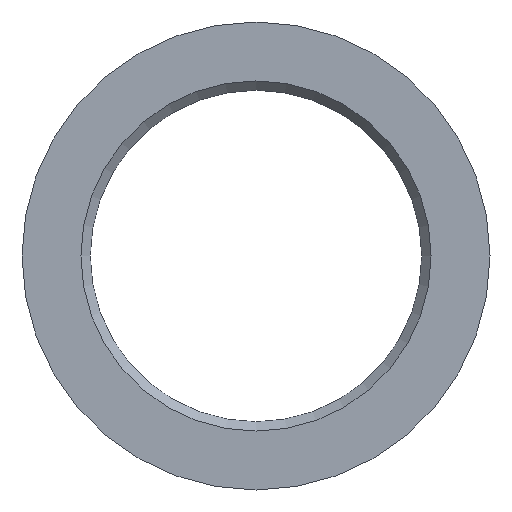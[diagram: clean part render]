
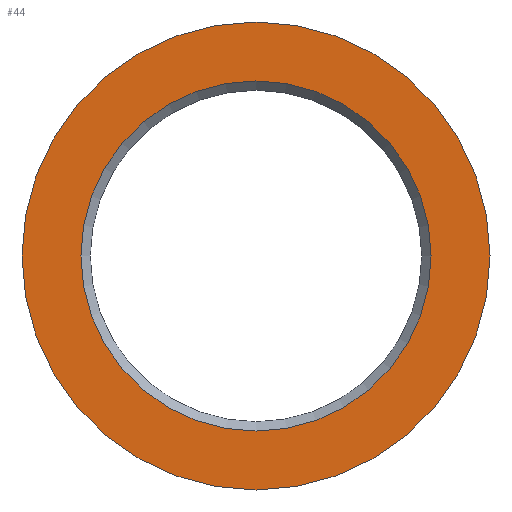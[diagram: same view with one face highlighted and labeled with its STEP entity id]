
A CAD part, front view. The second image highlights one B-rep face of the part: STEP entity #44.
In plain terms, the highlighted planar face has unit normal (0, -1, 0).
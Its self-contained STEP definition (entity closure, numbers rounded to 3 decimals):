
#44=ADVANCED_FACE('',(#63,#65),#67,.F.);
#63=FACE_BOUND('',#64,.T.);
#64=EDGE_LOOP('',(#210));
#65=FACE_BOUND('',#66,.T.);
#66=EDGE_LOOP('',(#211));
#67=PLANE('',#68);
#68=AXIS2_PLACEMENT_3D('',#69,#70,#71);
#69=CARTESIAN_POINT('',(0.,0.,0.));
#70=DIRECTION('',(0.,1.,0.));
#71=DIRECTION('',(-1.,0.,0.));
#210=ORIENTED_EDGE('',*,*,#294,.F.);
#211=ORIENTED_EDGE('',*,*,#295,.T.);
#294=EDGE_CURVE('',#336,#336,#337,.T.);
#295=EDGE_CURVE('',#338,#338,#339,.T.);
#336=VERTEX_POINT('',#408);
#337=CIRCLE('',#409,40.);
#338=VERTEX_POINT('',#413);
#339=CIRCLE('',#414,29.928);
#408=CARTESIAN_POINT('',(-40.,0.,0.));
#409=AXIS2_PLACEMENT_3D('',#410,#411,#412);
#410=CARTESIAN_POINT('',(0.,0.,0.));
#411=DIRECTION('',(0.,1.,0.));
#412=DIRECTION('',(-1.,0.,0.));
#413=CARTESIAN_POINT('',(-29.928,0.,0.));
#414=AXIS2_PLACEMENT_3D('',#415,#416,#417);
#415=CARTESIAN_POINT('',(0.,0.,0.));
#416=DIRECTION('',(0.,1.,0.));
#417=DIRECTION('',(-1.,0.,0.));
